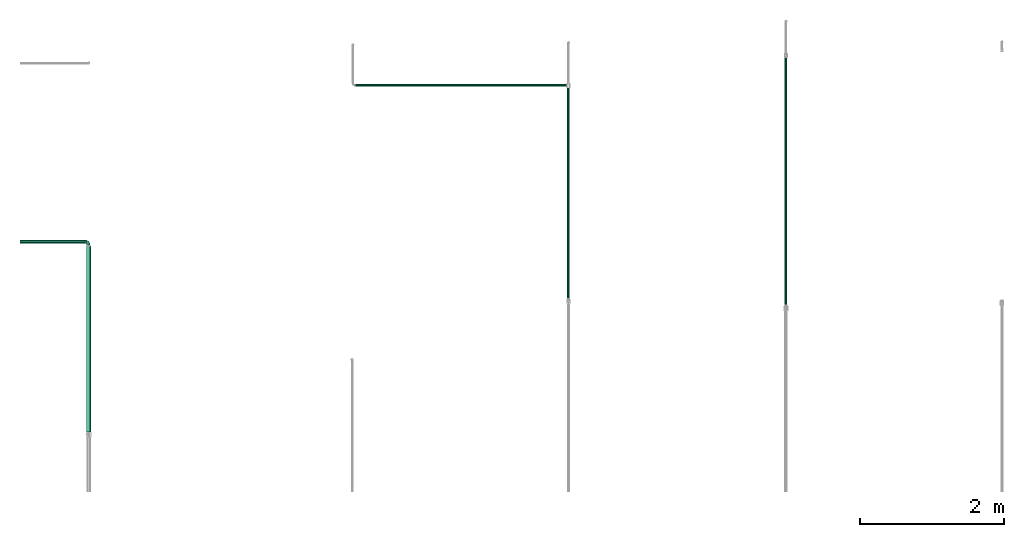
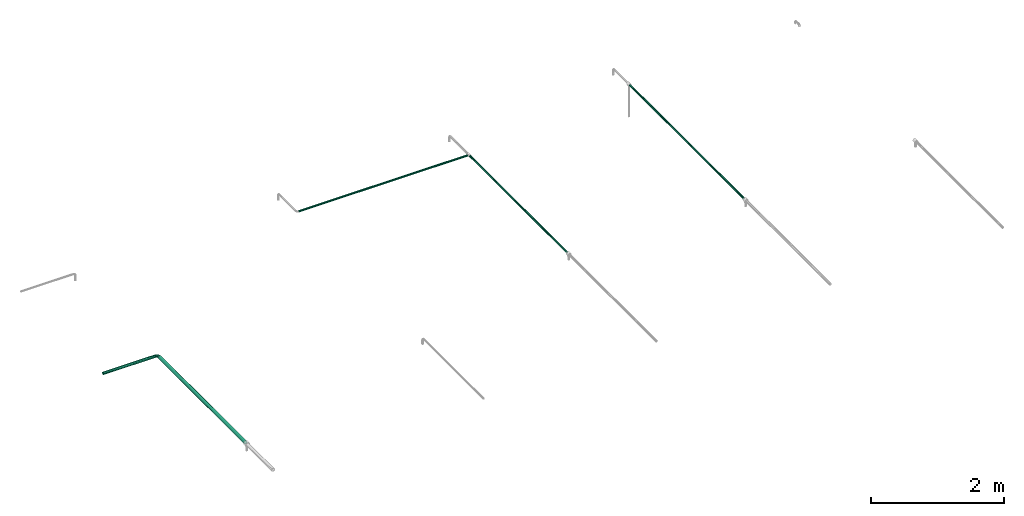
# One storey, part 1 of 17: 5 flow segments, 1 flow fitting.
"""IFC2X3 building model written with IfcOpenShell, lengths in millimetres."""

from ifc_helpers import new_model, entity, si_unit, converted_unit, derived_unit, direction, frame, origin_with_axes, origin_2d_with_axis, place, context, subcontext, project, spatial, hollow_circle, extrude, open_shell, surface_model, source, transform, mapped, type_object, element, save


model = new_model("IFC2X3")

# Units and contexts
model_context = context("Model", 3, precision=0.01, world=frame((0.0, 4.29681676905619e-09, 0.0)), true_north=direction((4.01073788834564e-13, 1.0)))
plan_context = context("Plan", 3, precision=0.01, world=frame((0.0, 4.29681676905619e-09, 0.0)), true_north=direction((4.01073788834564e-13, 1.0)))
body_context = subcontext(model_context, "Body", "Model", "MODEL_VIEW")
ifc_project = project(units=[converted_unit("PLANEANGLEUNIT", "DEGREE", entity("IfcPositiveLengthMeasure", 0.0174532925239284), si_unit("PLANEANGLEUNIT", "RADIAN"), dimensions=[0, 0, 0, 0, 0, 0, 0]), si_unit("AREAUNIT", "SQUARE_METRE"), si_unit("LENGTHUNIT", "METRE", prefix="MILLI"), si_unit("MASSUNIT", "GRAM", prefix="KILO"), si_unit("POWERUNIT", "WATT"), si_unit("PRESSUREUNIT", "PASCAL"), si_unit("FORCEUNIT", "NEWTON", prefix="KILO"), si_unit("ELECTRICVOLTAGEUNIT", "VOLT"), si_unit("ELECTRICCURRENTUNIT", "AMPERE"), si_unit("THERMODYNAMICTEMPERATUREUNIT", "DEGREE_CELSIUS"), si_unit("TIMEUNIT", "SECOND"), si_unit("VOLUMEUNIT", "CUBIC_METRE"), derived_unit("LINEARVELOCITYUNIT", [(si_unit("LENGTHUNIT", "METRE"), 1), (si_unit("TIMEUNIT", "SECOND"), -1)]), derived_unit("VOLUMETRICFLOWRATEUNIT", [(si_unit("VOLUMEUNIT", "CUBIC_METRE"), 1), (si_unit("TIMEUNIT", "SECOND"), -1)]), derived_unit("THERMALTRANSMITTANCEUNIT", [(si_unit("POWERUNIT", "WATT"), 1), (si_unit("THERMODYNAMICTEMPERATUREUNIT", "KELVIN"), -1), (si_unit("AREAUNIT", "SQUARE_METRE"), -1)]), derived_unit("SOUNDPRESSUREUNIT", [(si_unit("PRESSUREUNIT", "PASCAL"), 1)])], contexts=[model_context, plan_context])

# Site, building, storey
site_placement = place(None, frame((0.0, -4.29681676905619e-09, 0.0), z_axis=(0.0, 0.0, 1.0), x_axis=(1.0, 0.0, 0.0)))
site = spatial("IfcSite", under=ifc_project, at=site_placement, Name="ENGM", CompositionType="ELEMENT")
building_placement = place(site_placement, frame((0.0, 4.29681676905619e-09, 0.0), z_axis=(0.0, 0.0, 1.0), x_axis=(1.0, 0.0, 0.0)))
building = spatial("IfcBuilding", under=site, at=building_placement, Name="TH", CompositionType="ELEMENT")
storey_placement = place(building_placement, frame((0.0, 0.0, 205200.0), z_axis=(0.0, 0.0, 1.0), x_axis=(1.0, 0.0, 0.0)))
storey = spatial("IfcBuildingStorey", under=building, at=storey_placement, Name="Nivå D + 1,2 m", CompositionType="ELEMENT", Elevation=205200.0)

# Flow fitting
pipe_fitting_type = type_object("IfcPipeFittingType", Name="magi_pipe_fe_elbow_short_001", PredefinedType="BEND")
shared_shape_1 = source(origin_with_axes(), body_context, "Body", "SurfaceModel", [
    surface_model("IfcShellBasedSurfaceModel", [(-48.4, 6.26342, -23.37541), (-48.4, 0.0, -24.2), (-48.4, 17.11198, -17.11198), (-48.4, 12.1, -20.95781), (-48.4, 23.37541, -6.26342), (-48.4, 20.95781, -12.1), (-48.4, -12.1, -20.95781), (-48.4, -17.11198, -17.11198), (-48.4, -20.95781, -12.1), (-48.4, -6.26342, -23.37541), (-48.4, -23.37541, -6.26342), (-48.4, -24.2, 0.0), (-48.4, -23.37541, 6.26342), (-48.4, 23.37541, 6.26342), (-48.4, 6.26342, 23.37541), (-48.4, 20.95781, 12.1), (-48.4, 17.11198, 17.11198), (-48.4, 12.1, 20.95781), (-48.4, -12.1, 20.95781), (-48.4, -20.95781, 12.1), (-48.4, -17.11198, 17.11198), (-48.4, -6.26342, 23.37541), (-48.4, 0.0, 24.2), (-48.4, 24.2, 0.0), (-17.11198, 48.4, -17.11198), (0.0, 48.4, -24.2), (-6.26342, 48.4, -23.37541), (-12.1, 48.4, -20.95781), (-20.95781, 48.4, -12.1), (-23.37541, 48.4, -6.26342), (12.1, 48.4, -20.95781), (20.95781, 48.4, -12.1), (17.11198, 48.4, -17.11198), (6.26342, 48.4, -23.37541), (23.37541, 48.4, -6.26342), (23.37541, 48.4, 6.26342), (24.2, 48.4, 0.0), (-23.37541, 48.4, 6.26342), (-6.26342, 48.4, 23.37541), (-17.11198, 48.4, 17.11198), (-20.95781, 48.4, 12.1), (-12.1, 48.4, 20.95781), (12.1, 48.4, 20.95781), (17.11198, 48.4, 17.11198), (20.95781, 48.4, 12.1), (0.0, 48.4, 24.2), (6.26342, 48.4, 23.37541), (-24.2, 48.4, 0.0), (-35.50368, -18.80076, 13.58523), (-31.77913, -13.9618, 18.03279), (-34.50859, -21.43683, 0.0), (-21.39243, -15.41147, 12.21413), (-32.16301, -21.12203, 7.54749), (21.12203, 32.16301, 7.54749), (17.07617, 18.95745, 6.20374), (18.67365, 20.61718, 0.0), (-23.65565, 38.62451, 10.51816), (-20.21592, 37.67665, 15.89859), (-35.56981, -9.15108, 21.77256), (-36.96985, -3.20584, 23.78612), (-33.88786, 3.70953, 24.15875), (-8.84062, -10.8048, 0.0), (-18.95745, -17.07617, 6.20374), (-20.61718, -18.67365, 0.0), (-18.69715, -5.87343, 20.10488), (-24.09336, -0.21717, 23.45593), (-2.08262, -4.09091, 10.90396), (-0.40561, 0.49936, 14.45569), (-8.22634, -5.79523, 14.90978), (-37.83027, 20.17367, 15.88169), (-8.41063, 23.79825, 24.15658), (-17.92529, 17.92529, 23.61199), (-14.40991, 10.5752, 24.07534), (-41.86919, 14.6551, 19.71874), (-9.03342, 41.7434, 22.66763), (-3.31671, 36.19978, 24.14056), (-38.63654, 23.65174, 10.51655), (-38.25939, 25.77657, 5.32075), (-30.0475, 30.0475, 9.04616), (-37.30448, 9.49113, 22.86036), (-6.31688, 16.20853, 23.76192), (-12.02449, 4.43954, 22.59792), (-2.47225, 13.07459, 22.23951), (-4.32281, 4.32281, 19.78555), (13.9618, 31.77913, 18.03279), (15.41147, 21.39243, 12.21413), (18.80076, 35.50367, 13.58523), (-25.72741, 16.42033, 22.38358), (-26.59277, 10.36599, 23.76692), (3.20584, 36.96985, 23.78612), (9.15107, 35.56981, 21.77256), (5.87343, 18.69715, 20.10488), (21.43683, 34.50859, 0.0), (-23.74657, 5.93004, 24.18967), (-22.40302, 25.55556, 19.88516), (-33.3245, 16.42738, 20.3789), (-25.47357, 39.04012, 5.19167), (-30.32947, 31.74105, 4.25904), (11.04589, 19.60124, 16.55181), (-27.44219, 36.3, 0.0), (-10.46605, 32.79159, 23.04712), (-13.80953, 25.05111, 23.26361), (-17.54489, 31.27863, 20.33941), (-19.27982, 23.42922, 22.01925), (-14.78447, 40.57947, 19.81913), (-19.60124, -11.04589, 16.55181), (-25.09785, 32.07921, 13.69695), (-25.5093, 27.02629, 17.14196), (-31.08127, 26.00324, 13.49448), (0.21717, 24.09336, 23.45593), (5.51075, 8.40547, 15.32867), (-11.48597, -10.80284, 11.35932), (1.43689, -3.14326, 6.54995), (7.34882, 4.31024, 8.4514), (7.50574, 2.51208, 3.62663), (12.46453, 10.09451, 5.71609), (12.1504, 12.55391, 10.15678), (-36.3, 27.44219, 0.0), (-6.52237, -9.62364, 7.02633), (2.93595, -2.93595, 0.0), (10.8048, 8.84062, 0.0), (-19.60124, -11.04589, -16.55181), (-31.77913, -13.9618, -18.03279), (-18.69715, -5.87343, -20.10488), (-21.39243, -15.41147, -12.21413), (-37.67665, 20.21591, -15.89859), (-40.57947, 14.78447, -19.81913), (-39.04012, 25.47357, -5.19167), (-32.16301, -21.12203, -7.54749), (-30.0475, 30.0475, -9.04616), (-38.62452, 23.65565, -10.51816), (-18.95745, -17.07617, -6.20374), (-23.42922, 19.27982, -22.01926), (-25.05111, 13.80953, -23.26361), (-31.27863, 17.54489, -20.33941), (-14.6551, 41.86919, -19.71874), (-20.17367, 37.83026, -15.88169), (9.15108, 35.56981, -21.77256), (5.87343, 18.69715, -20.10488), (0.21717, 24.09336, -23.45593), (-41.7434, 9.03342, -22.66763), (-35.50368, -18.80076, -13.58523), (-35.56981, -9.15108, -21.77256), (-16.42033, 25.72741, -22.38358), (-9.49113, 37.30447, -22.86036), (-10.36599, 26.59277, -23.76692), (-36.96985, -3.20584, -23.78612), (-23.79826, 8.41063, -24.15658), (-17.92529, 17.92529, -23.61199), (-10.5752, 14.40991, -24.07534), (-36.19978, 3.31671, -24.14056), (-25.77657, 38.25939, -5.32075), (-23.65174, 38.63654, -10.51655), (-32.79159, 10.46605, -23.04712), (-31.74105, 30.32946, -4.25904), (-5.93004, 23.74657, -24.18967), (-25.55556, 22.40302, -19.88516), (-16.42738, 33.3245, -20.3789), (3.20584, 36.96985, -23.78612), (-3.70953, 33.88785, -24.15875), (18.80076, 35.50367, -13.58523), (13.9618, 31.77913, -18.03279), (7.50574, 2.51208, -3.62663), (12.46453, 10.09451, -5.71609), (-16.20853, 6.31688, -23.76192), (-4.43954, 12.02449, -22.59792), (-13.07459, 2.47225, -22.23951), (1.43689, -3.14326, -6.54995), (-6.52237, -9.62364, -7.02632), (-2.08262, -4.09091, -10.90396), (15.41147, 21.39243, -12.21413), (21.12203, 32.16301, -7.54749), (17.07617, 18.95745, -6.20374), (-32.07921, 25.09785, -13.69695), (11.04589, 19.60124, -16.55181), (12.1504, 12.55391, -10.15678), (5.51075, 8.40547, -15.32867), (-27.02629, 25.5093, -17.14196), (-26.00324, 31.08127, -13.49448), (-24.09336, -0.21717, -23.45593), (-4.32281, 4.32281, -19.78555), (-8.22634, -5.79524, -14.90978), (-11.48597, -10.80284, -11.35931), (-0.40561, 0.49936, -14.45569), (7.34882, 4.31024, -8.4514)], [open_shell([[[0, 1, 2]], [[3, 0, 2]], [[4, 5, 2]], [[6, 2, 1]], [[4, 2, 6]], [[7, 8, 6]], [[1, 9, 6]], [[8, 10, 6]], [[6, 10, 4]], [[11, 12, 10]], [[13, 4, 10]], [[14, 13, 10]], [[15, 13, 16]], [[13, 14, 17]], [[16, 13, 17]], [[10, 18, 14]], [[19, 20, 12]], [[20, 10, 12]], [[21, 22, 18]], [[20, 18, 10]], [[18, 22, 14]], [[23, 4, 13]], [[24, 25, 26]], [[24, 26, 27]], [[24, 28, 29]], [[25, 24, 30]], [[30, 24, 29]], [[30, 31, 32]], [[30, 33, 25]], [[30, 34, 31]], [[29, 34, 30]], [[34, 35, 36]], [[34, 29, 37]], [[34, 37, 38]], [[39, 37, 40]], [[41, 38, 37]], [[41, 37, 39]], [[38, 42, 34]], [[35, 43, 44]], [[35, 34, 43]], [[42, 45, 46]], [[34, 42, 43]], [[38, 45, 42]], [[37, 29, 47]], [[20, 48, 49]], [[12, 11, 50]], [[51, 48, 52]], [[53, 54, 55]], [[48, 20, 19]], [[12, 52, 19]], [[40, 56, 57]], [[49, 18, 20]], [[49, 58, 18]], [[22, 59, 60]], [[61, 62, 63]], [[58, 64, 65]], [[66, 67, 68]], [[15, 16, 69]], [[70, 71, 72]], [[17, 73, 16]], [[21, 59, 22]], [[38, 74, 75]], [[22, 60, 14]], [[15, 69, 76]], [[16, 73, 69]], [[23, 13, 77]], [[13, 15, 76]], [[77, 76, 78]], [[14, 79, 17]], [[80, 81, 82]], [[68, 83, 64]], [[84, 43, 42]], [[85, 86, 84]], [[87, 79, 88]], [[18, 58, 21]], [[45, 89, 46]], [[53, 35, 44]], [[45, 38, 75]], [[84, 90, 91]], [[44, 86, 53]], [[92, 35, 53]], [[86, 44, 43]], [[90, 42, 46]], [[53, 55, 92]], [[88, 93, 72]], [[54, 53, 85]], [[87, 94, 95]], [[78, 96, 97]], [[98, 84, 91]], [[99, 96, 47]], [[79, 14, 60]], [[96, 78, 56]], [[62, 52, 63]], [[57, 39, 40]], [[100, 70, 75]], [[101, 102, 103]], [[12, 50, 52]], [[104, 41, 39]], [[74, 38, 41]], [[57, 102, 104]], [[105, 64, 49]], [[90, 84, 42]], [[40, 37, 56]], [[56, 106, 57]], [[102, 57, 107]], [[95, 107, 69]], [[76, 108, 78]], [[100, 101, 70]], [[89, 75, 109]], [[64, 58, 49]], [[63, 52, 50]], [[59, 58, 65]], [[105, 49, 51]], [[64, 83, 81]], [[89, 90, 46]], [[36, 35, 92]], [[109, 82, 91]], [[109, 91, 90]], [[91, 83, 110]], [[111, 68, 105]], [[66, 68, 111]], [[62, 51, 52]], [[66, 112, 113]], [[114, 115, 113]], [[98, 85, 84]], [[52, 48, 19]], [[49, 48, 51]], [[84, 86, 43]], [[53, 86, 85]], [[88, 79, 60]], [[73, 79, 95]], [[96, 56, 37]], [[78, 108, 106]], [[87, 103, 94]], [[100, 74, 104]], [[108, 69, 107]], [[78, 97, 77]], [[88, 72, 71]], [[109, 75, 70]], [[81, 72, 65]], [[70, 72, 80]], [[75, 89, 45]], [[90, 89, 109]], [[58, 59, 21]], [[60, 59, 65]], [[67, 83, 68]], [[110, 113, 116]], [[88, 60, 93]], [[87, 88, 71]], [[103, 87, 71]], [[79, 87, 95]], [[101, 103, 71]], [[94, 103, 102]], [[47, 96, 37]], [[96, 99, 97]], [[99, 117, 97]], [[97, 117, 77]], [[23, 77, 117]], [[13, 76, 77]], [[60, 65, 93]], [[65, 72, 93]], [[70, 101, 71]], [[102, 101, 100]], [[69, 108, 76]], [[106, 108, 107]], [[57, 106, 107]], [[78, 106, 56]], [[57, 104, 39]], [[100, 104, 102]], [[102, 107, 94]], [[95, 94, 107]], [[64, 81, 65]], [[82, 81, 83]], [[91, 82, 83]], [[80, 82, 109]], [[70, 80, 109]], [[81, 80, 72]], [[79, 73, 17]], [[69, 73, 95]], [[104, 74, 41]], [[75, 74, 100]], [[62, 61, 118]], [[111, 62, 118]], [[113, 115, 116]], [[119, 118, 61]], [[111, 105, 51]], [[113, 112, 114]], [[120, 55, 54]], [[68, 64, 105]], [[91, 110, 98]], [[116, 98, 110]], [[62, 111, 51]], [[66, 111, 118]], [[112, 66, 118]], [[67, 113, 110]], [[118, 119, 112]], [[114, 112, 119]], [[119, 120, 114]], [[115, 120, 54]], [[120, 115, 114]], [[116, 54, 85]], [[54, 116, 115]], [[116, 85, 98]], [[113, 67, 66]], [[83, 67, 110]], [[121, 122, 123]], [[122, 121, 124]], [[5, 125, 2]], [[2, 126, 3]], [[117, 127, 23]], [[50, 10, 128]], [[127, 129, 130]], [[128, 131, 63]], [[132, 133, 134]], [[24, 135, 136]], [[137, 138, 139]], [[3, 140, 0]], [[128, 8, 141]], [[142, 6, 9]], [[128, 63, 50]], [[5, 4, 130]], [[8, 7, 141]], [[143, 144, 145]], [[146, 9, 1]], [[147, 148, 149]], [[8, 128, 10]], [[124, 141, 122]], [[150, 1, 0]], [[151, 152, 129]], [[125, 134, 126]], [[153, 147, 150]], [[127, 154, 129]], [[145, 155, 149]], [[47, 29, 151]], [[143, 156, 157]], [[152, 29, 28]], [[25, 158, 159]], [[122, 7, 6]], [[24, 27, 135]], [[144, 27, 26]], [[32, 160, 161]], [[25, 33, 158]], [[120, 162, 163]], [[130, 125, 5]], [[24, 136, 28]], [[0, 140, 150]], [[30, 161, 137]], [[142, 122, 6]], [[25, 159, 26]], [[164, 165, 166]], [[167, 168, 169]], [[31, 160, 32]], [[161, 30, 32]], [[170, 160, 171]], [[131, 128, 124]], [[36, 92, 34]], [[34, 92, 171]], [[172, 171, 55]], [[34, 171, 31]], [[144, 26, 159]], [[130, 173, 125]], [[174, 175, 176]], [[136, 152, 28]], [[30, 137, 33]], [[122, 142, 123]], [[134, 125, 177]], [[157, 177, 136]], [[152, 178, 129]], [[153, 133, 147]], [[146, 150, 179]], [[146, 142, 9]], [[11, 10, 50]], [[179, 166, 123]], [[179, 123, 142]], [[123, 180, 181]], [[138, 137, 161]], [[55, 171, 92]], [[158, 137, 139]], [[174, 161, 170]], [[138, 180, 165]], [[180, 138, 176]], [[124, 121, 182]], [[176, 183, 180]], [[61, 131, 168]], [[169, 168, 182]], [[172, 170, 171]], [[122, 141, 7]], [[128, 141, 124]], [[171, 160, 31]], [[161, 160, 170]], [[145, 144, 159]], [[135, 144, 157]], [[127, 130, 4]], [[129, 178, 173]], [[143, 132, 156]], [[153, 140, 126]], [[178, 136, 177]], [[129, 154, 151]], [[145, 149, 148]], [[179, 150, 147]], [[165, 149, 139]], [[147, 149, 164]], [[150, 146, 1]], [[142, 146, 179]], [[137, 158, 33]], [[159, 158, 139]], [[174, 138, 161]], [[184, 169, 183]], [[145, 159, 155]], [[143, 145, 148]], [[132, 143, 148]], [[144, 143, 157]], [[133, 132, 148]], [[156, 132, 134]], [[23, 127, 4]], [[127, 117, 154]], [[117, 99, 154]], [[154, 99, 151]], [[47, 151, 99]], [[29, 152, 151]], [[159, 139, 155]], [[139, 149, 155]], [[147, 133, 148]], [[134, 133, 153]], [[136, 178, 152]], [[173, 178, 177]], [[125, 173, 177]], [[129, 173, 130]], [[125, 126, 2]], [[153, 126, 134]], [[134, 177, 156]], [[157, 156, 177]], [[138, 165, 139]], [[166, 165, 180]], [[123, 166, 180]], [[164, 166, 179]], [[147, 164, 179]], [[165, 164, 149]], [[144, 135, 27]], [[136, 135, 157]], [[126, 140, 3]], [[150, 140, 153]], [[182, 131, 124]], [[168, 119, 61]], [[119, 167, 162]], [[63, 131, 61]], [[172, 163, 175]], [[172, 55, 120]], [[123, 181, 121]], [[182, 121, 181]], [[175, 174, 170]], [[176, 138, 174]], [[169, 182, 181]], [[131, 182, 168]], [[183, 169, 181]], [[167, 169, 184]], [[162, 167, 184]], [[119, 168, 167]], [[163, 162, 184]], [[120, 119, 162]], [[175, 163, 184]], [[120, 163, 172]], [[176, 175, 184]], [[172, 175, 170]], [[180, 183, 181]], [[184, 183, 176]]])]),
])
flow_fitting_placement = place(storey_placement, frame((895782.28739, 479502.62186, 4417.71893), z_axis=(0.0, 0.0, 1.0), x_axis=(0.0, 1.0, 0.0)))
element("IfcFlowFitting", 1, at=flow_fitting_placement, inside=storey, type_object=pipe_fitting_type, Name="magi_pipe_fe_elbow_short_001", context=body_context, shape_type="MappedRepresentation", body=[
    mapped(shared_shape_1, transform((0.0, 0.0, 0.0), scale=1.0)),
])

# Flow segments
pipe_segment_type = type_object("IfcPipeSegmentType", Name="Stålrør normaltykke", PredefinedType="RIGIDSEGMENT")
shared_shape_2 = source(origin_with_axes(), body_context, "Body", "SweptSolid", [
    extrude(hollow_circle(Radius=16.9, WallThickness=2.0, at=origin_2d_with_axis()), frame((0.0, 0.0, 0.0), z_axis=(1.0, 0.0, 0.0), x_axis=(0.0, 1.0, 0.0)), (0.0, 0.0, 1.0), 2927.0),
])
flow_segment_1_placement = place(storey_placement, frame((902404.40707, 481669.28614, 4450.0), z_axis=(5.1999999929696e-05, 0.0, 0.999999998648), x_axis=(-0.999999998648, 0.0, 5.1999999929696e-05)))
element("IfcFlowSegment", 2, at=flow_segment_1_placement, inside=storey, type_object=pipe_segment_type, Name="Stålrør normaltykke", context=body_context, shape_type="MappedRepresentation", body=[
    mapped(shared_shape_2, transform((0.0, 0.0, 0.0), scale=1.0)),
])
shared_shape_3 = source(origin_with_axes(), body_context, "Body", "SweptSolid", [
    extrude(hollow_circle(Radius=16.9, WallThickness=2.0, at=origin_2d_with_axis()), frame((0.0, 0.0, 0.0), z_axis=(1.0, 0.0, 0.0), x_axis=(0.0, 1.0, 0.0)), (0.0, 0.0, 1.0), 2917.0),
])
flow_segment_2_placement = place(storey_placement, frame((902429.75707, 478718.51818, 4450.0), z_axis=(0.0, 0.0, 1.0), x_axis=(0.0, 1.0, 0.0)))
element("IfcFlowSegment", 3, at=flow_segment_2_placement, inside=storey, type_object=pipe_segment_type, Name="Stålrør normaltykke", context=body_context, shape_type="MappedRepresentation", body=[
    mapped(shared_shape_3, transform((0.0, 0.0, 0.0), scale=1.0)),
])
shared_shape_4 = source(origin_with_axes(), body_context, "Body", "SweptSolid", [
    extrude(hollow_circle(Radius=16.9, WallThickness=2.0, at=origin_2d_with_axis()), frame((0.0, 0.0, 0.0), z_axis=(1.0, 0.0, 0.0), x_axis=(0.0, 1.0, 0.0)), (0.0, 0.0, 1.0), 3420.5),
])
flow_segment_3_placement = place(storey_placement, frame((905442.5, 478627.27394, 4442.5), z_axis=(0.0, 0.0, 1.0), x_axis=(0.0, 1.0, 0.0)))
element("IfcFlowSegment", 4, at=flow_segment_3_placement, inside=storey, type_object=pipe_segment_type, Name="Stålrør normaltykke", context=body_context, shape_type="MappedRepresentation", body=[
    mapped(shared_shape_4, transform((0.0, 0.0, 0.0), scale=1.0)),
])
shared_shape_5 = source(origin_with_axes(), body_context, "Body", "SweptSolid", [
    extrude(hollow_circle(Radius=30.1, WallThickness=2.0, at=origin_2d_with_axis()), frame((0.0, 0.0, 0.0), z_axis=(1.0, 0.0, 0.0), x_axis=(0.0, 1.0, 0.0)), (0.0, 0.0, 1.0), 2574.9),
])
flow_segment_4_placement = place(storey_placement, frame((895782.28739, 479442.22186, 4417.71893), z_axis=(0.0, 0.0, 1.0), x_axis=(0.0, -1.0, 0.0)))
element("IfcFlowSegment", 5, at=flow_segment_4_placement, inside=storey, type_object=pipe_segment_type, Name="Stålrør normaltykke", context=body_context, shape_type="MappedRepresentation", body=[
    mapped(shared_shape_5, transform((0.0, 0.0, 0.0), scale=1.0)),
])
shared_shape_6 = source(origin_with_axes(), body_context, "Body", "SweptSolid", [
    extrude(hollow_circle(Radius=24.1, WallThickness=2.0, at=origin_2d_with_axis()), frame((0.0, 0.0, 0.0), z_axis=(1.0, 0.0, 0.0), x_axis=(0.0, 1.0, 0.0)), (0.0, 0.0, 1.0), 901.8),
])
flow_segment_5_placement = place(storey_placement, frame((895733.88739, 479502.62186, 4417.71893), z_axis=(0.0, 0.0, 1.0), x_axis=(-1.0, 0.0, 0.0)))
element("IfcFlowSegment", 6, at=flow_segment_5_placement, inside=storey, type_object=pipe_segment_type, Name="Stålrør normaltykke", context=body_context, shape_type="MappedRepresentation", body=[
    mapped(shared_shape_6, transform((0.0, 0.0, 0.0), scale=1.0)),
])

save(model, "model.ifc")
